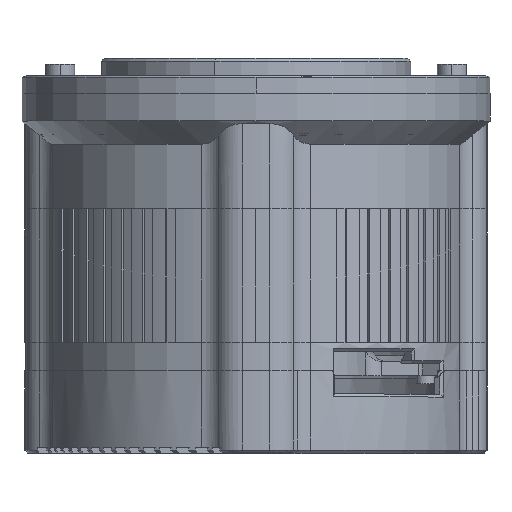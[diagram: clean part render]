
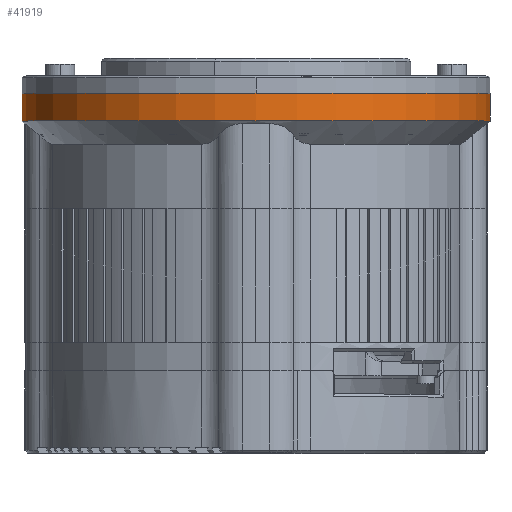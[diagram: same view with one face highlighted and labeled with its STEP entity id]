
A CAD part, top view. The second image highlights one B-rep face of the part: STEP entity #41919.
In plain terms, the highlighted cylindrical face has radius 40 mm (diameter 80 mm), a partial arc.
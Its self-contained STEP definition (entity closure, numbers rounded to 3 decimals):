
#5531 = CARTESIAN_POINT ( 'NONE',  ( 0., 19.7, 0. ) ) ;
#6389 = CIRCLE ( 'NONE', #18288, 40. ) ;
#9572 = CARTESIAN_POINT ( 'NONE',  ( 0., 19.7, -40. ) ) ;
#10061 = CYLINDRICAL_SURFACE ( 'NONE', #43773, 40. ) ;
#11861 = DIRECTION ( 'NONE',  ( 0., 0., -1. ) ) ;
#13780 = DIRECTION ( 'NONE',  ( 0., -1., 0. ) ) ;
#16760 = CARTESIAN_POINT ( 'NONE',  ( 0., 15., -40. ) ) ;
#17471 = VERTEX_POINT ( 'NONE', #26405 ) ;
#18075 = LINE ( 'NONE', #9572, #50420 ) ;
#18288 = AXIS2_PLACEMENT_3D ( 'NONE', #35801, #23806, #11861 ) ;
#18743 = DIRECTION ( 'NONE',  ( 0., -1., 0. ) ) ;
#18959 = EDGE_CURVE ( 'NONE', #21592, #46411, #6389, .T. ) ;
#19415 = EDGE_LOOP ( 'NONE', ( #49117, #31862, #43102, #30329 ) ) ;
#19624 = DIRECTION ( 'NONE',  ( 0., 0., 1. ) ) ;
#20892 = CARTESIAN_POINT ( 'NONE',  ( 0., 19.7, -40. ) ) ;
#21592 = VERTEX_POINT ( 'NONE', #23388 ) ;
#21743 = DIRECTION ( 'NONE',  ( 0., 0., -1. ) ) ;
#22910 = VECTOR ( 'NONE', #18743, 1000. ) ;
#23317 = EDGE_CURVE ( 'NONE', #17471, #23945, #32965, .T. ) ;
#23388 = CARTESIAN_POINT ( 'NONE',  ( 0., 15., 40. ) ) ;
#23583 = AXIS2_PLACEMENT_3D ( 'NONE', #23624, #39865, #19624 ) ;
#23624 = CARTESIAN_POINT ( 'NONE',  ( 0., 19.7, 0. ) ) ;
#23806 = DIRECTION ( 'NONE',  ( 0., 1., 0. ) ) ;
#23945 = VERTEX_POINT ( 'NONE', #20892 ) ;
#25251 = EDGE_CURVE ( 'NONE', #17471, #21592, #34469, .T. ) ;
#26405 = CARTESIAN_POINT ( 'NONE',  ( 0., 19.7, 40. ) ) ;
#30271 = FACE_OUTER_BOUND ( 'NONE', #19415, .T. ) ;
#30329 = ORIENTED_EDGE ( 'NONE', *, *, #31741, .F. ) ;
#31741 = EDGE_CURVE ( 'NONE', #23945, #46411, #18075, .T. ) ;
#31862 = ORIENTED_EDGE ( 'NONE', *, *, #25251, .T. ) ;
#32965 = CIRCLE ( 'NONE', #23583, 40. ) ;
#34469 = LINE ( 'NONE', #50720, #22910 ) ;
#35801 = CARTESIAN_POINT ( 'NONE',  ( 0., 15., 0. ) ) ;
#39865 = DIRECTION ( 'NONE',  ( 0., 1., 0. ) ) ;
#41919 = ADVANCED_FACE ( 'NONE', ( #30271 ), #10061, .T. ) ;
#43102 = ORIENTED_EDGE ( 'NONE', *, *, #18959, .T. ) ;
#43773 = AXIS2_PLACEMENT_3D ( 'NONE', #5531, #13780, #21743 ) ;
#46411 = VERTEX_POINT ( 'NONE', #16760 ) ;
#46567 = DIRECTION ( 'NONE',  ( 0., -1., 0. ) ) ;
#49117 = ORIENTED_EDGE ( 'NONE', *, *, #23317, .F. ) ;
#50420 = VECTOR ( 'NONE', #46567, 1000. ) ;
#50720 = CARTESIAN_POINT ( 'NONE',  ( 0., 19.7, 40. ) ) ;
